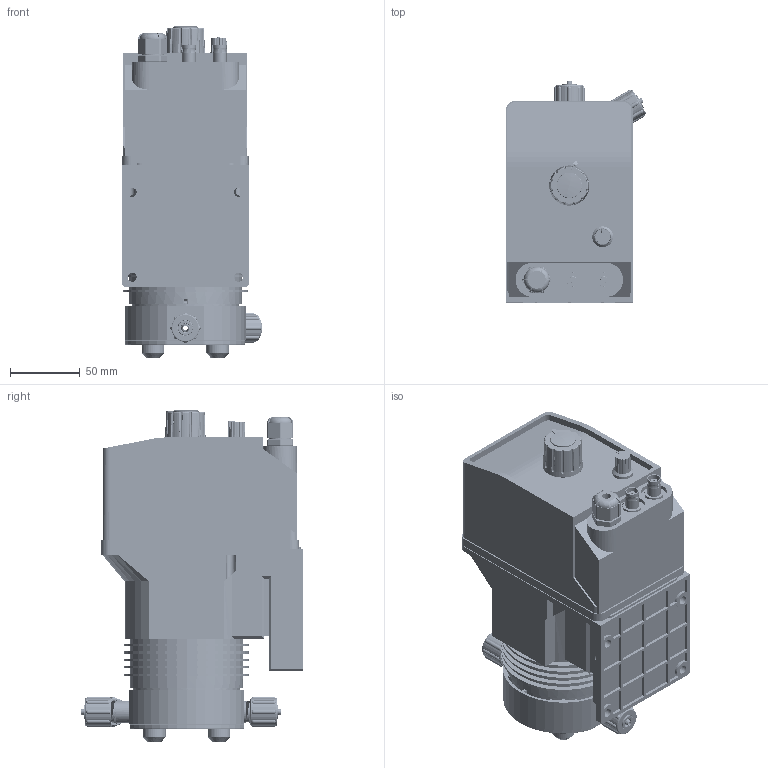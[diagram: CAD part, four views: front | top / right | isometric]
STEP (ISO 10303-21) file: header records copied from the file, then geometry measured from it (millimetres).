
FILE_DESCRIPTION (( 'STEP AP214' ), '1' );
FILE_NAME ('EMEC K Series Pump.STEP', '2019-02-07T23:53:49', ( '' ), ( '' ), 'SwSTEP 2.0', 'SolidWorks 2018', '' );
FILE_SCHEMA (( 'AUTOMOTIVE_DESIGN' ));
Length unit declared in the file: millimetre
Products named in the file (29): Bolt Cap - Rubber - Large; BNC SocketLarge; Washer - SS - M5 - 14.7 x 3.15mm; BNC - Centre Socket - Large; Bolt - SS - Allen Socket Head - M5x0.75 - 45mm_M5 x 20mm; BNC - Centre Bush - Large; O-Ring - 11.5 x 1.75; BNC - Body - Large; EMEC 025.XXXX.X - Hose Fitting Kit - 3_8in 4x6_Hose Fitting Kit - 3_8in - 4x6 - FP; EMEC A series pump - Sroke Adjusment Knob Position Indicator; Hose Fitting Kit - 3_8in - Nut_Hose Fitting Kit - 3_8in - Nut - FP; EMEC A series pump - Sroke Adjusment Knob; Hose Fitting Kit - 3_8in - 4x6 Clamp; Hose Fitting Kit - 3_8in - 4x6 Cone; EMEC K series pump - Face (Bare); EMEC KA series pump - Head - PVDF; EMEC K series pump - Foot; EMEC K series pump - Diaphgram; EMEC KCO pump face; EMEC K Series Pump; Gland - 16mm; Gland - 16mm - Bush; Gland - 16mm - Body; EMEC K series pump - Stroke Frequency Knob; EMEC KA Pump Head - PVDF_FP; EMEC K series pump - Stroke Frequency Grommet; EMEC KA series pump - Head - Reinforcing Plate; EMEC A series pump - Sroke Adjusment Shaft; O-Ring - 39.0 x 2.5 - Head O-Ring
Assembly tree (42 placements, depth 4):
  EMEC K Series Pump
    EMEC K series pump - Foot
    EMEC KCO pump face
      EMEC K series pump - Face (Bare)
      EMEC A series pump - Sroke Adjusment Knob
      EMEC A series pump - Sroke Adjusment Knob Position Indicator
      BNC SocketLarge  x2
        BNC - Body - Large
        BNC - Centre Bush - Large
        BNC - Centre Socket - Large
      EMEC A series pump - Sroke Adjusment Shaft
      EMEC K series pump - Stroke Frequency Grommet
      EMEC K series pump - Stroke Frequency Knob
      Gland - 16mm
        Gland - 16mm - Body
        Gland - 16mm - Bush
    EMEC K series pump - Diaphgram
    EMEC KA Pump Head - PVDF_FP
      EMEC KA series pump - Head - PVDF
      EMEC 025.XXXX.X - Hose Fitting Kit - 3_8in 4x6_Hose Fitting Kit - 3_8in - 4x6 - FP  x3
        Hose Fitting Kit - 3_8in - 4x6 Cone
        Hose Fitting Kit - 3_8in - 4x6 Clamp
        Hose Fitting Kit - 3_8in - Nut_Hose Fitting Kit - 3_8in - Nut - FP
      O-Ring - 11.5 x 1.75  x3
      Bolt - SS - Allen Socket Head - M5x0.75 - 45mm_M5 x 20mm  x4
      Washer - SS - M5 - 14.7 x 3.15mm  x4
      Bolt Cap - Rubber - Large  x4
      O-Ring - 39.0 x 2.5 - Head O-Ring
      EMEC KA series pump - Head - Reinforcing Plate
Bounding box: 100.58 x 159.1 x 238.6 mm (x, y, z)
Volume: 454101.3 mm3; surface area: 354231 mm2
Topology: 73 solids, 76 shells, 4529 faces, 11514 edges, 7445 vertices
Faces by surface type: plane 1520, cylinder 1392, bspline 1037, torus 338, cone 179, sphere 63
Entity records: 238304 total; most frequent: CARTESIAN_POINT 166063, ORIENTED_EDGE 15936, DIRECTION 13386, EDGE_CURVE 7968, VERTEX_POINT 5168, AXIS2_PLACEMENT_3D 4987, LINE 3412, VECTOR 3412
